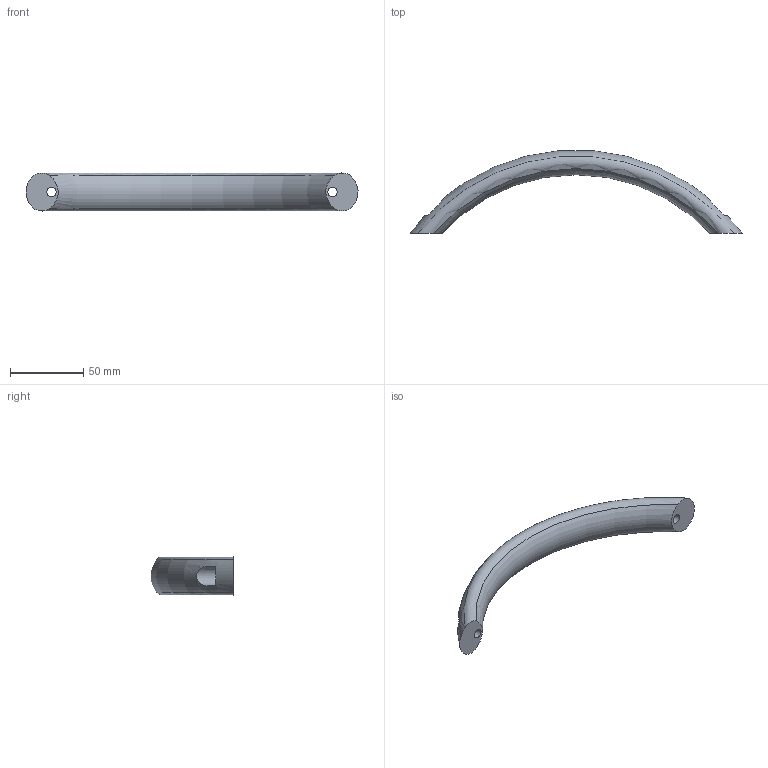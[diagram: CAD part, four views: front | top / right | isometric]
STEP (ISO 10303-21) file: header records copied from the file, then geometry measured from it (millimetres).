
FILE_DESCRIPTION( ( 'STEP AP203' ), '1' );
FILE_NAME( 'C:/Temp/Ganter_Step_05_03_2020/data/1_2/gn_565_4/Arch handle GN 565.4-26-192-B-BL.stp', '2020-03-05T10:12:37', ( 'License CC BY-ND 4.0' ), ( 'CADENAS' ), ' ', 'PARTsolutions', ' ' );
FILE_SCHEMA( ( 'CONFIG_CONTROL_DESIGN' ) );
Length unit declared in the file: millimetre
Products named in the file (1): _Arch handle GN 565.4-26-192-B-BL
Bounding box: 226.97 x 56.49 x 26 mm (x, y, z)
Volume: 76377.1 mm3; surface area: 17802.9 mm2
Topology: 1 solids, 1 shells, 20 faces, 44 edges, 30 vertices
Faces by surface type: plane 10, cylinder 6, torus 4
Full cylindrical faces by diameter (mm): 6.4 x2, 13 x2
Entity records: 856 total; most frequent: CARTESIAN_POINT 391, DIRECTION 86, ORIENTED_EDGE 76, AXIS2_PLACEMENT_3D 39, EDGE_CURVE 38, EDGE_LOOP 32, VERTEX_POINT 28, FACE_OUTER_BOUND 24
